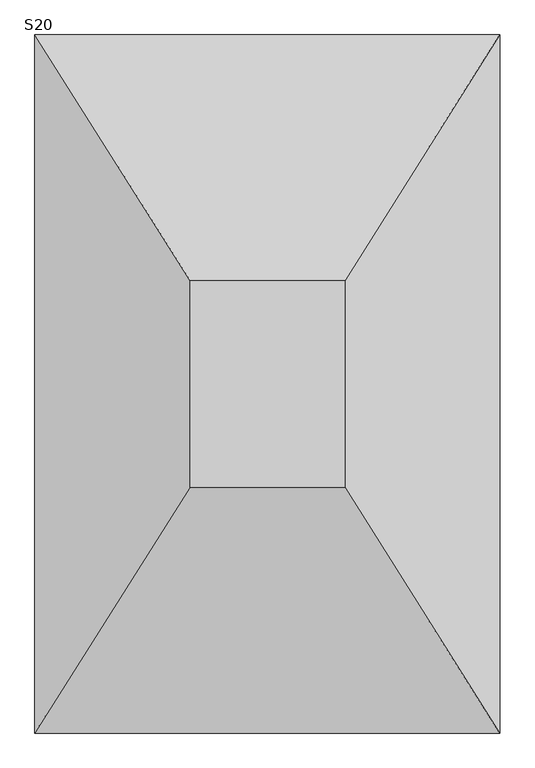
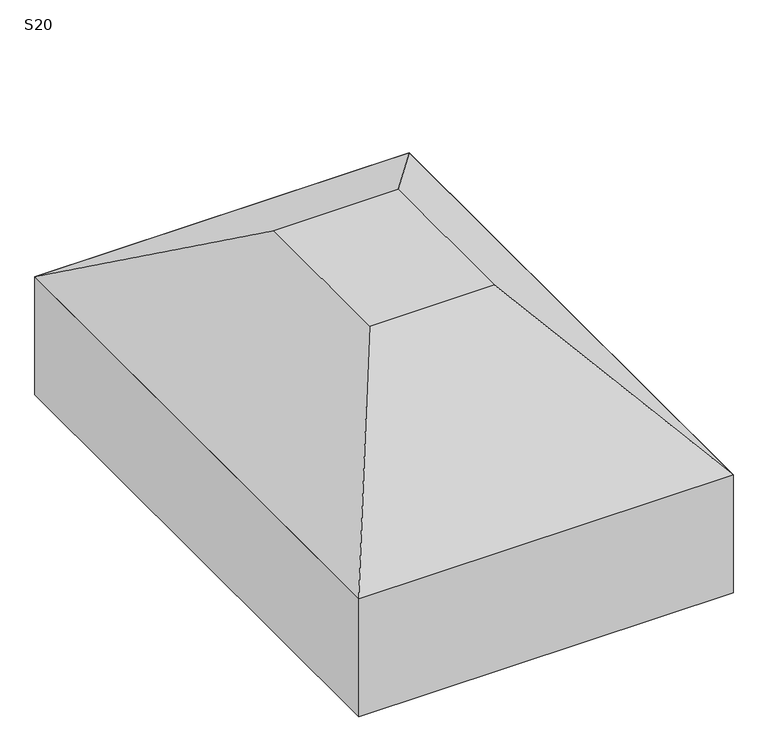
"""IFC4 building model written with IfcOpenShell, lengths in millimetres: fastener geometry, TQS - Sapata : S20."""

from ifc_helpers import new_model, si_unit, frame, origin, place, context, project, spatial, polyline, outline, extrude, faceted_brep, source, transform, mapped, element, save


def s20_9b2413b7(model_context):
    return source(origin(), model_context, "Body", "SolidModel", [
        faceted_brep([(-50.0, 0.0, 0.0), (-350.0, 0.0, 0.0), (-350.0, -400.0, 0.0), (-50.0, -400.0, 0.0), (250.0, 475.0, -300.0), (250.0, -875.0, -300.0), (-650.0, -875.0, -300.0), (-650.0, 475.0, -300.0)], [[[0, 1, 2, 3]], [[4, 5, 6, 7]], [[4, 7, 1, 0]], [[7, 6, 2, 1]], [[6, 5, 3, 2]], [[5, 4, 0, 3]]]),
        extrude(outline(polyline([(250.0, 475.0), (250.0, -875.0), (-650.0, -875.0), (-650.0, 475.0), (250.0, 475.0)])), frame((0.0, 0.0, -600.0), z_axis=(0.0, 0.0, 1.0), x_axis=(1.0, 0.0, 0.0)), (0.0, 0.0, 1.0), 300.0),
    ])


if __name__ == "__main__":
    model = new_model("IFC4")
    model_context = context("Model", 3, world=origin())
    ifc_project = project(units=[si_unit("LENGTHUNIT", "METRE", prefix="MILLI")], contexts=[model_context])
    site = spatial("IfcSite", under=ifc_project)
    building = spatial("IfcBuilding", under=site)
    placement = place(None, origin())
    s20_shape = s20_9b2413b7(model_context)
    element("IfcFastener", 1, ObjectType="TQS - Sapata : S20", at=placement, inside=building, context=model_context, shape_type="MappedRepresentation", body=[
        mapped(s20_shape, transform((0.0, 0.0, 0.0), x_axis=(1.0, 0.0, 0.0), y_axis=(0.0, 1.0, 0.0), z_axis=(0.0, 0.0, 1.0))),
    ])
    save(model, "model.ifc")
